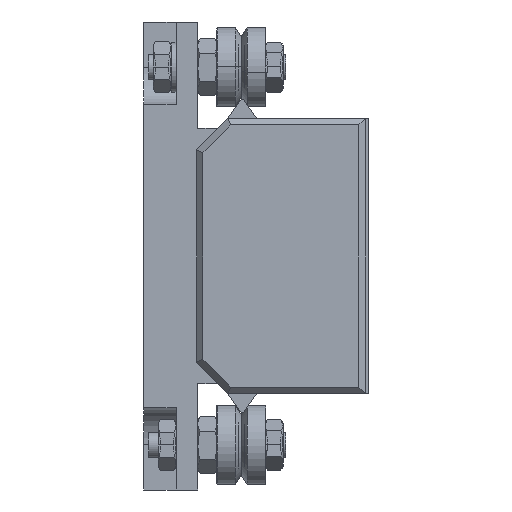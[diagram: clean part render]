
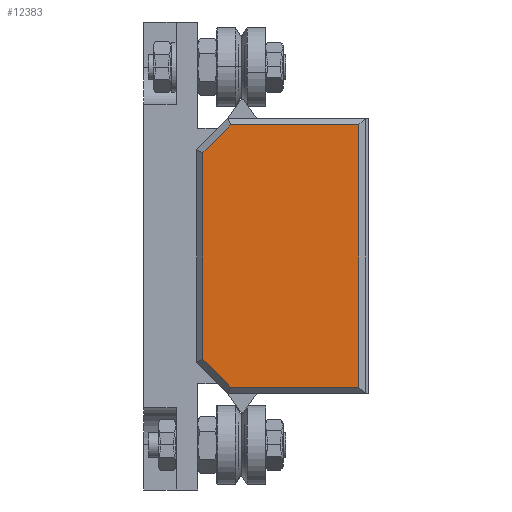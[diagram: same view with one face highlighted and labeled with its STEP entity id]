
A CAD part, left-side view. The second image highlights one B-rep face of the part: STEP entity #12383.
In plain terms, the highlighted planar face has unit normal (-1, 0, 0) as drawn and (0, 0, 1) by its records, which use the part's own axes.
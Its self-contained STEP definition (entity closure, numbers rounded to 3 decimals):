
#34 = CARTESIAN_POINT ( 'NONE',  ( -21., 1., 6. ) ) ;
#772 = ORIENTED_EDGE ( 'NONE', *, *, #2940, .T. ) ;
#826 = DIRECTION ( 'NONE',  ( 0., 0., -1. ) ) ;
#1388 = CARTESIAN_POINT ( 'NONE',  ( -21., 21.586, 6. ) ) ;
#1685 = VECTOR ( 'NONE', #14658, 1000. ) ;
#2869 = LINE ( 'NONE', #3789, #8399 ) ;
#2940 = EDGE_CURVE ( 'NONE', #14009, #4311, #16590, .T. ) ;
#2978 = LINE ( 'NONE', #4232, #1685 ) ;
#3333 = FACE_OUTER_BOUND ( 'NONE', #13720, .T. ) ;
#3789 = CARTESIAN_POINT ( 'NONE',  ( 16.293, 26.293, 6. ) ) ;
#4232 = CARTESIAN_POINT ( 'NONE',  ( -21., 0., 6. ) ) ;
#4234 = VERTEX_POINT ( 'NONE', #7519 ) ;
#4239 = DIRECTION ( 'NONE',  ( -1., 0., 0. ) ) ;
#4311 = VERTEX_POINT ( 'NONE', #1388 ) ;
#5388 = EDGE_CURVE ( 'NONE', #8370, #9683, #7323, .T. ) ;
#6014 = ORIENTED_EDGE ( 'NONE', *, *, #14471, .T. ) ;
#6034 = ORIENTED_EDGE ( 'NONE', *, *, #10323, .T. ) ;
#6322 = ORIENTED_EDGE ( 'NONE', *, *, #5388, .T. ) ;
#7323 = LINE ( 'NONE', #10001, #13220 ) ;
#7429 = LINE ( 'NONE', #11293, #8587 ) ;
#7519 = CARTESIAN_POINT ( 'NONE',  ( 16.586, 26., 6. ) ) ;
#7758 = VECTOR ( 'NONE', #11538, 1000. ) ;
#7824 = VERTEX_POINT ( 'NONE', #34 ) ;
#8048 = EDGE_CURVE ( 'NONE', #4311, #7824, #2978, .T. ) ;
#8370 = VERTEX_POINT ( 'NONE', #15228 ) ;
#8399 = VECTOR ( 'NONE', #8900, 1000. ) ;
#8587 = VECTOR ( 'NONE', #9644, 1000. ) ;
#8900 = DIRECTION ( 'NONE',  ( -0.707, 0.707, 0. ) ) ;
#9644 = DIRECTION ( 'NONE',  ( 1., 0., 0. ) ) ;
#9683 = VERTEX_POINT ( 'NONE', #16298 ) ;
#10001 = CARTESIAN_POINT ( 'NONE',  ( 21., 0., 6. ) ) ;
#10323 = EDGE_CURVE ( 'NONE', #4234, #14009, #11546, .T. ) ;
#10454 = CARTESIAN_POINT ( 'NONE',  ( 0., 26., 6. ) ) ;
#10716 = VECTOR ( 'NONE', #4239, 1000. ) ;
#10972 = DIRECTION ( 'NONE',  ( -1., 0., 0. ) ) ;
#11293 = CARTESIAN_POINT ( 'NONE',  ( 0., 1., 6. ) ) ;
#11538 = DIRECTION ( 'NONE',  ( -0.707, -0.707, 0. ) ) ;
#11546 = LINE ( 'NONE', #10454, #10716 ) ;
#12383 = ADVANCED_FACE ( 'NONE', ( #3333 ), #12410, .F. ) ;
#12410 = PLANE ( 'NONE',  #14937 ) ;
#13220 = VECTOR ( 'NONE', #16568, 1000. ) ;
#13666 = CARTESIAN_POINT ( 'NONE',  ( 0., 0., 6. ) ) ;
#13720 = EDGE_LOOP ( 'NONE', ( #13920, #6014, #6322, #14284, #6034, #772 ) ) ;
#13920 = ORIENTED_EDGE ( 'NONE', *, *, #8048, .T. ) ;
#14009 = VERTEX_POINT ( 'NONE', #14897 ) ;
#14076 = CARTESIAN_POINT ( 'NONE',  ( -21.293, 21.293, 6. ) ) ;
#14284 = ORIENTED_EDGE ( 'NONE', *, *, #15488, .T. ) ;
#14471 = EDGE_CURVE ( 'NONE', #7824, #8370, #7429, .T. ) ;
#14658 = DIRECTION ( 'NONE',  ( 0., -1., 0. ) ) ;
#14897 = CARTESIAN_POINT ( 'NONE',  ( -16.586, 26., 6. ) ) ;
#14937 = AXIS2_PLACEMENT_3D ( 'NONE', #13666, #826, #10972 ) ;
#15228 = CARTESIAN_POINT ( 'NONE',  ( 21., 1., 6. ) ) ;
#15488 = EDGE_CURVE ( 'NONE', #9683, #4234, #2869, .T. ) ;
#16298 = CARTESIAN_POINT ( 'NONE',  ( 21., 21.586, 6. ) ) ;
#16568 = DIRECTION ( 'NONE',  ( 0., 1., 0. ) ) ;
#16590 = LINE ( 'NONE', #14076, #7758 ) ;
